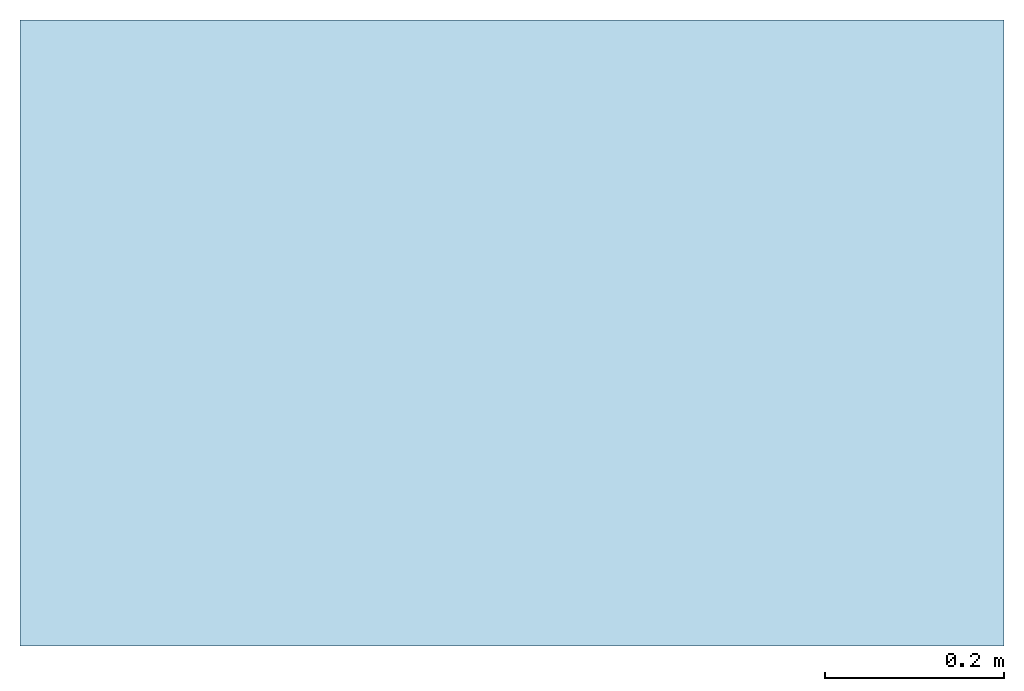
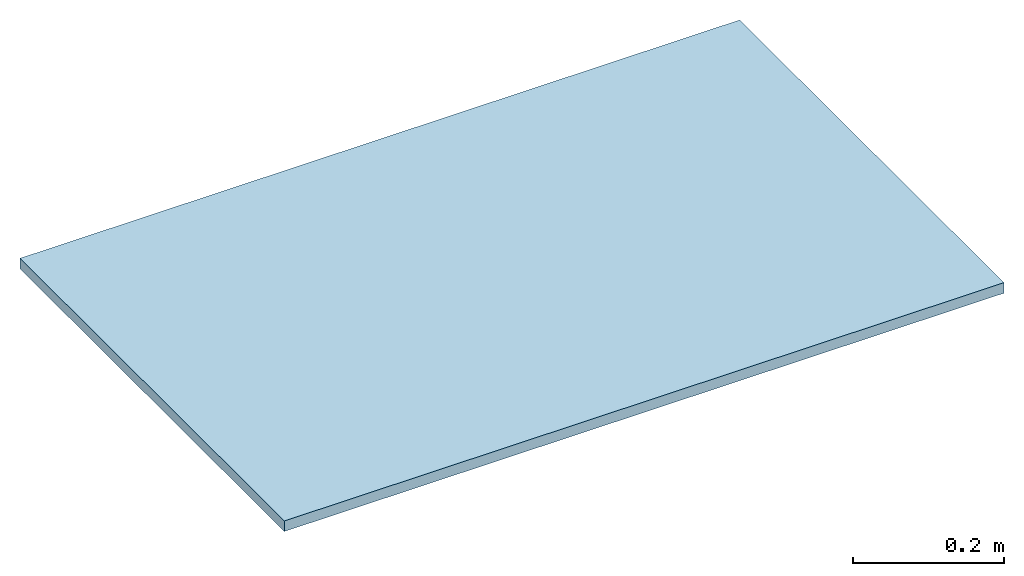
# One storey: 1 slab.
"""IFC2X3 building model written with IfcOpenShell, lengths in millimetres."""

from ifc_helpers import new_model, entity, si_unit, converted_unit, derived_unit, direction, frame, frame_2d, origin, place, context, subcontext, project, spatial, rectangle, extrude, material, layer, layer_set, layer_usage, element, save


model = new_model("IFC2X3")

# Units and contexts
model_context = context("Model", 3, precision=0.01, world=origin(), true_north=direction((6.12303176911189e-17, 1.0)))
context_of_model = context(None, 3, precision=0.01, world=origin(), true_north=direction((6.12303176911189e-17, 1.0)))
body_context = subcontext(model_context, "Body", "Model", "MODEL_VIEW")
ifc_project = project(units=[si_unit("LENGTHUNIT", "METRE", prefix="MILLI"), si_unit("AREAUNIT", "SQUARE_METRE"), si_unit("VOLUMEUNIT", "CUBIC_METRE"), converted_unit("PLANEANGLEUNIT", "DEGREE", entity("IfcRatioMeasure", 0.0174532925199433), si_unit("PLANEANGLEUNIT", "RADIAN"), dimensions=[0, 0, 0, 0, 0, 0, 0]), si_unit("MASSUNIT", "GRAM", prefix="KILO"), si_unit("TIMEUNIT", "SECOND"), si_unit("FREQUENCYUNIT", "HERTZ"), si_unit("THERMODYNAMICTEMPERATUREUNIT", "DEGREE_CELSIUS"), derived_unit("THERMALTRANSMITTANCEUNIT", [(si_unit("MASSUNIT", "GRAM", prefix="KILO"), 1), (si_unit("THERMODYNAMICTEMPERATUREUNIT", "KELVIN"), -1), (si_unit("TIMEUNIT", "SECOND"), -3)]), derived_unit("VOLUMETRICFLOWRATEUNIT", [(si_unit("LENGTHUNIT", "METRE"), 3), (si_unit("TIMEUNIT", "SECOND"), -1)]), si_unit("ELECTRICCURRENTUNIT", "AMPERE"), si_unit("ELECTRICVOLTAGEUNIT", "VOLT"), si_unit("POWERUNIT", "WATT"), si_unit("FORCEUNIT", "NEWTON", prefix="KILO"), si_unit("ILLUMINANCEUNIT", "LUX"), si_unit("LUMINOUSFLUXUNIT", "LUMEN"), si_unit("LUMINOUSINTENSITYUNIT", "CANDELA"), si_unit("PRESSUREUNIT", "PASCAL")], contexts=[model_context, context_of_model])

# Site, building, storey
site_placement = place(None, origin())
site = spatial("IfcSite", under=ifc_project, at=site_placement, Name="Default", CompositionType="ELEMENT")
building_placement = place(site_placement, origin())
building = spatial("IfcBuilding", under=site, at=building_placement, CompositionType="ELEMENT")
storey_placement = place(building_placement, origin())
storey = spatial("IfcBuildingStorey", under=building, at=storey_placement, Name="Уровень 1", CompositionType="ELEMENT", Elevation=0.0)

# Slab
ifc_material = material(Name="ROLS_ISOMARKET_Плита ENERGOFLOOR PIPELOCK SOLO 0,7-1,1")
ifc_layer = layer(ifc_material, 17.0)
ifc_layer_set = layer_set([ifc_layer], Name="Перекрытие:ROLS_ISOMARKET_Плита ENERGOFLOOR PIPELOCK SOLO 0,7-1,1")
ifc_layer_usage = layer_usage(ifc_layer_set, "AXIS3", "POSITIVE", 0.0)
slab_placement = place(storey_placement, origin())
element("IfcSlab", 1, at=slab_placement, inside=storey, material=ifc_layer_usage, Name="Перекрытие:ROLS_ISOMARKET_Плита ENERGOFLOOR PIPELOCK SOLO 0,7-1,1", ObjectType="Перекрытие:ROLS_ISOMARKET_Плита ENERGOFLOOR PIPELOCK SOLO 0,7-1,1", PredefinedType="FLOOR", context=body_context, shape_type="SweptSolid", body=[
    extrude(rectangle(XDim=699.999999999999, YDim=1100.0, at=frame_2d((-1.10844666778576e-12, -1.08002495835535e-12), x_axis=(1.0, 0.0))), frame((-16565.4270794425, 11452.1606263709, 0.0), z_axis=(0.0, 0.0, -1.0), x_axis=(0.0, 1.0, 0.0)), (0.0, 0.0, 1.0), 17.0),
])

save(model, "model.ifc")
